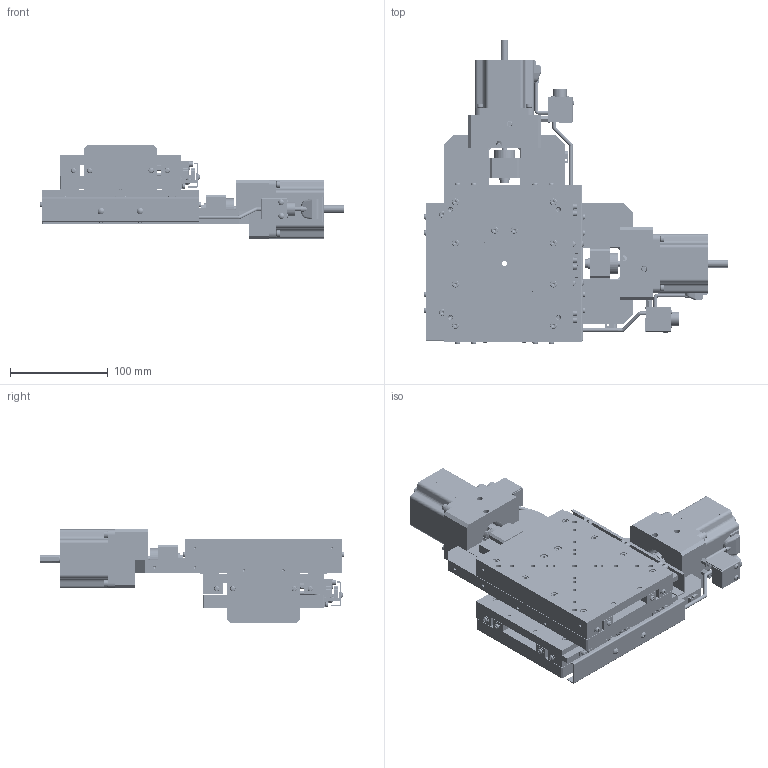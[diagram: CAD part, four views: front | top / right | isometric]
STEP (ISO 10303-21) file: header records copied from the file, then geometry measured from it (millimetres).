
FILE_DESCRIPTION (( 'STEP AP203' ), '1' );
FILE_NAME ('YA16A-R101-RRR.STEP', '2019-03-04T00:54:47', ( '' ), ( '' ), 'SwSTEP 2.0', 'SolidWorks 2018', '' );
FILE_SCHEMA (( 'CONFIG_CONTROL_DESIGN' ));
Length unit declared in the file: millimetre
Products named in the file (4): YA16A-R101-RRR; table; base; second table
Assembly tree (3 placements, depth 2):
  YA16A-R101-RRR
    table
    second table
    base
Bounding box: 310.98 x 310.98 x 95 mm (x, y, z)
Volume: 1921464.1 mm3; surface area: 413228 mm2
Topology: 3 solids, 11 shells, 4798 faces, 11782 edges, 7240 vertices
Faces by surface type: plane 2840, cylinder 1202, cone 584, torus 68, sphere 64, bspline 40
Entity records: 142286 total; most frequent: CARTESIAN_POINT 26692, DIRECTION 25040, ORIENTED_EDGE 23212, EDGE_CURVE 11606, AXIS2_PLACEMENT_3D 8952, VERTEX_POINT 7240, LINE 7136, VECTOR 7136
